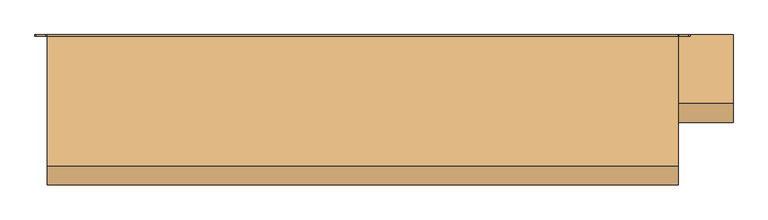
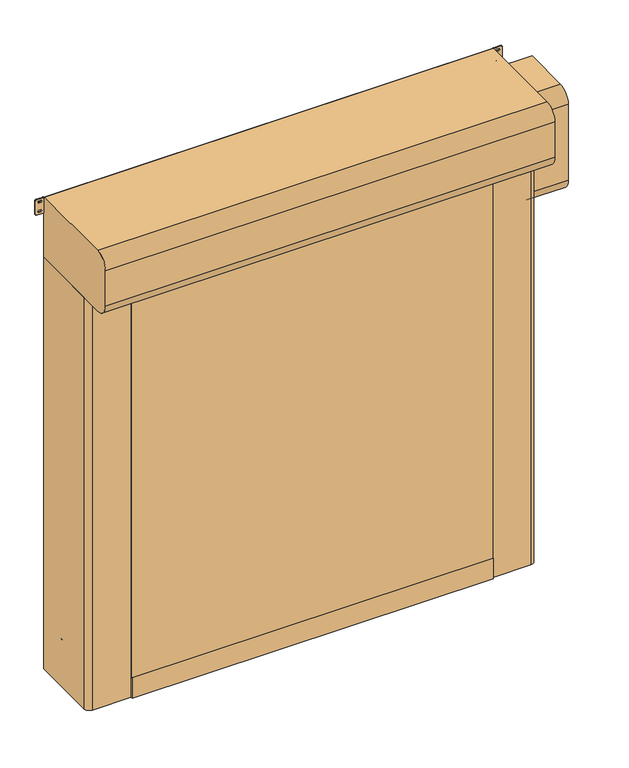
"""IFC4 building model written with IfcOpenShell, lengths in millimetres: door geometry, DO_WPB_Dynamicroll Frigo_Air_BMP : Dynamicroll Frigo2 Air."""

from ifc_helpers import new_model, si_unit, point, frame, frame_2d, origin, origin_with_axes, place, context, project, spatial, polyline, circle_curve, trimmed, segment, composite_curve, outline, extrude, source, transform, mapped, element, save


def door_e48c7063(model_context):
    return source(origin(), model_context, "Body", "SweptSolid", [
        extrude(outline(polyline([(-1012.0, -421.5), (1012.0, -421.5), (1012.0, -428.5), (-1012.0, -428.5), (-1012.0, -421.5)])), frame((0.0, 0.0, 120.0), z_axis=(0.0, 0.0, 1.0), x_axis=(1.0, 0.0, 0.0)), (0.0, 0.0, 1.0), 2500.0),
        extrude(outline(polyline([(-1012.0, -419.5), (1012.0, -419.5), (1012.0, -430.5), (-1012.0, -430.5), (-1012.0, -419.5)])), origin_with_axes(), (0.0, 0.0, 1.0), 120.0),
        extrude(outline(composite_curve([segment(trimmed(circle_curve(frame_2d((1576.6666667, 1171.0)), 6.0), [point((1582.6666667, 1171.0))], [point((1570.6666667, 1171.0))], False, "CARTESIAN"), True, "CONTINUOUS"), segment(polyline([(1570.6666667, 1171.0), (1570.6666667, 1189.0)]), True, "CONTINUOUS"), segment(trimmed(circle_curve(frame_2d((1576.6666667, 1189.0)), 6.0), [point((1570.6666667, 1189.0))], [point((1582.6666667, 1189.0))], False, "CARTESIAN"), True, "CONTINUOUS"), segment(polyline([(1582.6666667, 1189.0), (1582.6666667, 1171.0)]), True, "CONTINUOUS")], self_intersect=False)), frame((0.0, -20.0, 0.0), z_axis=(0.0, 1.0, 0.0), x_axis=(0.0, 0.0, 1.0)), (0.0, 0.0, 1.0), 20.0),
        extrude(outline(composite_curve([segment(trimmed(circle_curve(frame_2d((863.3333333, 1171.0)), 6.0), [point((869.3333333, 1171.0))], [point((857.3333333, 1171.0))], False, "CARTESIAN"), True, "CONTINUOUS"), segment(polyline([(857.3333333, 1171.0), (857.3333333, 1189.0)]), True, "CONTINUOUS"), segment(trimmed(circle_curve(frame_2d((863.3333333, 1189.0)), 6.0), [point((857.3333333, 1189.0))], [point((869.3333333, 1189.0))], False, "CARTESIAN"), True, "CONTINUOUS"), segment(polyline([(869.3333333, 1189.0), (869.3333333, 1171.0)]), True, "CONTINUOUS")], self_intersect=False)), frame((0.0, -20.0, 0.0), z_axis=(0.0, 1.0, 0.0), x_axis=(0.0, 0.0, 1.0)), (0.0, 0.0, 1.0), 20.0),
        extrude(outline(composite_curve([segment(trimmed(circle_curve(frame_2d((2290.0, 1171.0)), 6.0), [point((2296.0, 1171.0))], [point((2284.0, 1171.0))], False, "CARTESIAN"), True, "CONTINUOUS"), segment(polyline([(2284.0, 1171.0), (2284.0, 1189.0)]), True, "CONTINUOUS"), segment(trimmed(circle_curve(frame_2d((2290.0, 1189.0)), 6.0), [point((2284.0, 1189.0))], [point((2296.0, 1189.0))], False, "CARTESIAN"), True, "CONTINUOUS"), segment(polyline([(2296.0, 1189.0), (2296.0, 1171.0)]), True, "CONTINUOUS")], self_intersect=False)), frame((0.0, -20.0, 0.0), z_axis=(0.0, 1.0, 0.0), x_axis=(0.0, 0.0, 1.0)), (0.0, 0.0, 1.0), 20.0),
        extrude(outline(composite_curve([segment(trimmed(circle_curve(frame_2d((150.0, 1171.0)), 6.0), [point((156.0, 1171.0))], [point((144.0, 1171.0))], False, "CARTESIAN"), True, "CONTINUOUS"), segment(polyline([(144.0, 1171.0), (144.0, 1189.0)]), True, "CONTINUOUS"), segment(trimmed(circle_curve(frame_2d((150.0, 1189.0)), 6.0), [point((144.0, 1189.0))], [point((156.0, 1189.0))], False, "CARTESIAN"), True, "CONTINUOUS"), segment(polyline([(156.0, 1189.0), (156.0, 1171.0)]), True, "CONTINUOUS")], self_intersect=False)), frame((0.0, -20.0, 0.0), z_axis=(0.0, 1.0, 0.0), x_axis=(0.0, 0.0, 1.0)), (0.0, 0.0, 1.0), 20.0),
        extrude(outline(composite_curve([segment(polyline([(1582.6666667, -1171.0), (1582.6666667, -1189.0)]), True, "CONTINUOUS"), segment(trimmed(circle_curve(frame_2d((1576.6666667, -1189.0)), 6.0), [point((1582.6666667, -1189.0))], [point((1570.6666667, -1189.0))], False, "CARTESIAN"), True, "CONTINUOUS"), segment(polyline([(1570.6666667, -1189.0), (1570.6666667, -1171.0)]), True, "CONTINUOUS"), segment(trimmed(circle_curve(frame_2d((1576.6666667, -1171.0)), 6.0), [point((1570.6666667, -1171.0))], [point((1582.6666667, -1171.0))], False, "CARTESIAN"), True, "CONTINUOUS")], self_intersect=False)), frame((0.0, -20.0, 0.0), z_axis=(0.0, 1.0, 0.0), x_axis=(0.0, 0.0, 1.0)), (0.0, 0.0, 1.0), 20.0),
        extrude(outline(composite_curve([segment(polyline([(869.3333333, -1171.0), (869.3333333, -1189.0)]), True, "CONTINUOUS"), segment(trimmed(circle_curve(frame_2d((863.3333333, -1189.0)), 6.0), [point((869.3333333, -1189.0))], [point((857.3333333, -1189.0))], False, "CARTESIAN"), True, "CONTINUOUS"), segment(polyline([(857.3333333, -1189.0), (857.3333333, -1171.0)]), True, "CONTINUOUS"), segment(trimmed(circle_curve(frame_2d((863.3333333, -1171.0)), 6.0), [point((857.3333333, -1171.0))], [point((869.3333333, -1171.0))], False, "CARTESIAN"), True, "CONTINUOUS")], self_intersect=False)), frame((0.0, -20.0, 0.0), z_axis=(0.0, 1.0, 0.0), x_axis=(0.0, 0.0, 1.0)), (0.0, 0.0, 1.0), 20.0),
        extrude(outline(composite_curve([segment(polyline([(2296.0, -1171.0), (2296.0, -1189.0)]), True, "CONTINUOUS"), segment(trimmed(circle_curve(frame_2d((2290.0, -1189.0)), 6.0), [point((2296.0, -1189.0))], [point((2284.0, -1189.0))], False, "CARTESIAN"), True, "CONTINUOUS"), segment(polyline([(2284.0, -1189.0), (2284.0, -1171.0)]), True, "CONTINUOUS"), segment(trimmed(circle_curve(frame_2d((2290.0, -1171.0)), 6.0), [point((2284.0, -1171.0))], [point((2296.0, -1171.0))], False, "CARTESIAN"), True, "CONTINUOUS")], self_intersect=False)), frame((0.0, -20.0, 0.0), z_axis=(0.0, 1.0, 0.0), x_axis=(0.0, 0.0, 1.0)), (0.0, 0.0, 1.0), 20.0),
        extrude(outline(composite_curve([segment(polyline([(156.0, -1171.0), (156.0, -1189.0)]), True, "CONTINUOUS"), segment(trimmed(circle_curve(frame_2d((150.0, -1189.0)), 6.0), [point((156.0, -1189.0))], [point((144.0, -1189.0))], False, "CARTESIAN"), True, "CONTINUOUS"), segment(polyline([(144.0, -1189.0), (144.0, -1171.0)]), True, "CONTINUOUS"), segment(trimmed(circle_curve(frame_2d((150.0, -1171.0)), 6.0), [point((144.0, -1171.0))], [point((156.0, -1171.0))], False, "CARTESIAN"), True, "CONTINUOUS")], self_intersect=False)), frame((0.0, -20.0, 0.0), z_axis=(0.0, 1.0, 0.0), x_axis=(0.0, 0.0, 1.0)), (0.0, 0.0, 1.0), 20.0),
        extrude(outline(polyline([(-1012.0, -221.5), (1012.0, -221.5), (1012.0, -228.5), (-1012.0, -228.5), (-1012.0, -221.5)])), frame((0.0, 0.0, 120.0), z_axis=(0.0, 0.0, 1.0), x_axis=(1.0, 0.0, 0.0)), (0.0, 0.0, 1.0), 2500.0),
        extrude(outline(polyline([(-1012.0, -219.5), (1012.0, -219.5), (1012.0, -230.5), (-1012.0, -230.5), (-1012.0, -219.5)])), origin_with_axes(), (0.0, 0.0, 1.0), 120.0),
        extrude(outline(composite_curve([segment(polyline([(-1260.0, 0.0), (-1015.0, 0.0), (-1015.0, -209.2857143), (-1035.0, -215.0), (-1000.0, -215.0), (-1000.0, -221.5), (-1020.0, -221.5), (-1020.0, -228.5), (-1000.0, -228.5), (-1000.0, -235.0), (-1035.0, -235.0), (-1035.0, -250.0), (-1005.0, -250.0), (-1005.0, -420.0), (-1230.0, -420.0)]), True, "CONTINUOUS"), segment(trimmed(circle_curve(frame_2d((-1230.0, -390.0)), 30.0), [point((-1230.0, -420.0))], [point((-1260.0, -390.0))], False, "CARTESIAN"), True, "CONTINUOUS"), segment(polyline([(-1260.0, -390.0), (-1260.0, 0.0)]), True, "CONTINUOUS")], self_intersect=False)), origin_with_axes(), (0.0, 0.0, 1.0), 2440.0),
        extrude(outline(composite_curve([segment(polyline([(1260.0, 0.0), (1260.0, -390.0)]), True, "CONTINUOUS"), segment(trimmed(circle_curve(frame_2d((1230.0, -390.0)), 30.0), [point((1260.0, -390.0))], [point((1230.0, -420.0))], False, "CARTESIAN"), True, "CONTINUOUS"), segment(polyline([(1230.0, -420.0), (1005.0, -420.0), (1005.0, -250.0), (1035.0, -250.0), (1035.0, -235.0), (1000.0, -235.0), (1000.0, -228.5), (1020.0, -228.5), (1020.0, -221.5), (1000.0, -221.5), (1000.0, -215.0), (1035.0, -215.0), (1015.0, -209.2857143), (1015.0, 0.0), (1260.0, 0.0)]), True, "CONTINUOUS")], self_intersect=False)), origin_with_axes(), (0.0, 0.0, 1.0), 2440.0),
        extrude(outline(composite_curve([segment(trimmed(circle_curve(frame_2d((-5.0, 2445.0)), 5.0), [point((0.0, 2445.0))], [point((-5.0, 2440.0))], False, "CARTESIAN"), True, "CONTINUOUS"), segment(polyline([(-5.0, 2440.0), (-525.0, 2440.0)]), True, "CONTINUOUS"), segment(trimmed(circle_curve(frame_2d((-525.0, 2515.0)), 75.0), [point((-525.0, 2440.0))], [point((-600.0, 2515.0))], False, "CARTESIAN"), True, "CONTINUOUS"), segment(polyline([(-600.0, 2515.0), (-600.0, 2725.0)]), True, "CONTINUOUS"), segment(trimmed(circle_curve(frame_2d((-525.0, 2725.0)), 75.0), [point((-600.0, 2725.0))], [point((-525.0, 2800.0))], False, "CARTESIAN"), True, "CONTINUOUS"), segment(polyline([(-525.0, 2800.0), (-5.0, 2800.0)]), True, "CONTINUOUS"), segment(trimmed(circle_curve(frame_2d((-5.0, 2795.0)), 5.0), [point((-5.0, 2800.0))], [point((0.0, 2795.0))], False, "CARTESIAN"), True, "CONTINUOUS"), segment(polyline([(0.0, 2795.0), (0.0, 2445.0)]), True, "CONTINUOUS")], self_intersect=False)), frame((-1260.0, 0.0, 0.0), z_axis=(1.0, 0.0, 0.0), x_axis=(0.0, 1.0, 0.0)), (0.0, 0.0, 1.0), 2520.0),
        extrude(outline(composite_curve([segment(trimmed(circle_curve(frame_2d((2713.75, 1265.75)), 5.75), [point((2713.75, 1260.0))], [point((2708.0, 1265.75))], False, "CARTESIAN"), True, "CONTINUOUS"), segment(polyline([(2708.0, 1265.75), (2708.0, 1303.25)]), True, "CONTINUOUS"), segment(trimmed(circle_curve(frame_2d((2713.75, 1303.25)), 5.75), [point((2708.0, 1303.25))], [point((2713.75, 1309.0))], False, "CARTESIAN"), True, "CONTINUOUS"), segment(polyline([(2713.75, 1309.0), (2794.25, 1309.0)]), True, "CONTINUOUS"), segment(trimmed(circle_curve(frame_2d((2794.25, 1303.25)), 5.75), [point((2794.25, 1309.0))], [point((2800.0, 1303.25))], False, "CARTESIAN"), True, "CONTINUOUS"), segment(polyline([(2800.0, 1303.25), (2800.0, 1265.75)]), True, "CONTINUOUS"), segment(trimmed(circle_curve(frame_2d((2794.25, 1265.75)), 5.75), [point((2800.0, 1265.75))], [point((2794.25, 1260.0))], False, "CARTESIAN"), True, "CONTINUOUS"), segment(polyline([(2794.25, 1260.0), (2713.75, 1260.0)]), True, "CONTINUOUS")], self_intersect=False), holes=[composite_curve([segment(trimmed(circle_curve(frame_2d((2781.5, 1288.75)), 5.75), [point((2787.25, 1288.75))], [point((2775.75, 1288.75))], True, "CARTESIAN"), True, "CONTINUOUS"), segment(polyline([(2775.75, 1288.75), (2775.75, 1280.25)]), True, "CONTINUOUS"), segment(trimmed(circle_curve(frame_2d((2781.5, 1280.25)), 5.75), [point((2775.75, 1280.25))], [point((2787.25, 1280.25))], True, "CARTESIAN"), True, "CONTINUOUS"), segment(polyline([(2787.25, 1280.25), (2787.25, 1288.75)]), True, "CONTINUOUS")], self_intersect=False), composite_curve([segment(trimmed(circle_curve(frame_2d((2726.5, 1288.75)), 5.75), [point((2732.25, 1288.75))], [point((2720.75, 1288.75))], True, "CARTESIAN"), True, "CONTINUOUS"), segment(polyline([(2720.75, 1288.75), (2720.75, 1280.25)]), True, "CONTINUOUS"), segment(trimmed(circle_curve(frame_2d((2726.5, 1280.25)), 5.75), [point((2720.75, 1280.25))], [point((2732.25, 1280.25))], True, "CARTESIAN"), True, "CONTINUOUS"), segment(polyline([(2732.25, 1280.25), (2732.25, 1288.75)]), True, "CONTINUOUS")], self_intersect=False)]), frame((0.0, -5.0, 0.0), z_axis=(0.0, 1.0, 0.0), x_axis=(0.0, 0.0, 1.0)), (0.0, 0.0, 1.0), 5.0),
        extrude(outline(composite_curve([segment(trimmed(circle_curve(frame_2d((2713.75, -1303.25)), 5.75), [point((2713.75, -1309.0))], [point((2708.0, -1303.25))], False, "CARTESIAN"), True, "CONTINUOUS"), segment(polyline([(2708.0, -1303.25), (2708.0, -1265.75)]), True, "CONTINUOUS"), segment(trimmed(circle_curve(frame_2d((2713.75, -1265.75)), 5.75), [point((2708.0, -1265.75))], [point((2713.75, -1260.0))], False, "CARTESIAN"), True, "CONTINUOUS"), segment(polyline([(2713.75, -1260.0), (2794.25, -1260.0)]), True, "CONTINUOUS"), segment(trimmed(circle_curve(frame_2d((2794.25, -1265.75)), 5.75), [point((2794.25, -1260.0))], [point((2800.0, -1265.75))], False, "CARTESIAN"), True, "CONTINUOUS"), segment(polyline([(2800.0, -1265.75), (2800.0, -1303.25)]), True, "CONTINUOUS"), segment(trimmed(circle_curve(frame_2d((2794.25, -1303.25)), 5.75), [point((2800.0, -1303.25))], [point((2794.25, -1309.0))], False, "CARTESIAN"), True, "CONTINUOUS"), segment(polyline([(2794.25, -1309.0), (2713.75, -1309.0)]), True, "CONTINUOUS")], self_intersect=False), holes=[composite_curve([segment(trimmed(circle_curve(frame_2d((2781.5, -1280.25)), 5.75), [point((2787.25, -1280.25))], [point((2775.75, -1280.25))], True, "CARTESIAN"), True, "CONTINUOUS"), segment(polyline([(2775.75, -1280.25), (2775.75, -1288.75)]), True, "CONTINUOUS"), segment(trimmed(circle_curve(frame_2d((2781.5, -1288.75)), 5.75), [point((2775.75, -1288.75))], [point((2787.25, -1288.75))], True, "CARTESIAN"), True, "CONTINUOUS"), segment(polyline([(2787.25, -1288.75), (2787.25, -1280.25)]), True, "CONTINUOUS")], self_intersect=False), composite_curve([segment(trimmed(circle_curve(frame_2d((2726.5, -1280.25)), 5.75), [point((2732.25, -1280.25))], [point((2720.75, -1280.25))], True, "CARTESIAN"), True, "CONTINUOUS"), segment(polyline([(2720.75, -1280.25), (2720.75, -1288.75)]), True, "CONTINUOUS"), segment(trimmed(circle_curve(frame_2d((2726.5, -1288.75)), 5.75), [point((2720.75, -1288.75))], [point((2732.25, -1288.75))], True, "CARTESIAN"), True, "CONTINUOUS"), segment(polyline([(2732.25, -1288.75), (2732.25, -1280.25)]), True, "CONTINUOUS")], self_intersect=False)]), frame((0.0, -5.0, 0.0), z_axis=(0.0, 1.0, 0.0), x_axis=(0.0, 0.0, 1.0)), (0.0, 0.0, 1.0), 5.0),
        extrude(outline(composite_curve([segment(polyline([(0.0, 2675.0), (0.0, 2075.0), (-275.0, 2075.0)]), True, "CONTINUOUS"), segment(trimmed(circle_curve(frame_2d((-275.0, 2150.0)), 75.0), [point((-275.0, 2075.0))], [point((-350.0, 2150.0))], False, "CARTESIAN"), True, "CONTINUOUS"), segment(polyline([(-350.0, 2150.0), (-350.0, 2600.0)]), True, "CONTINUOUS"), segment(trimmed(circle_curve(frame_2d((-275.0, 2600.0)), 75.0), [point((-350.0, 2600.0))], [point((-275.0, 2675.0))], False, "CARTESIAN"), True, "CONTINUOUS"), segment(polyline([(-275.0, 2675.0), (0.0, 2675.0)]), True, "CONTINUOUS")], self_intersect=False)), frame((1260.0, 0.0, 0.0), z_axis=(1.0, 0.0, 0.0), x_axis=(0.0, 1.0, 0.0)), (0.0, 0.0, 1.0), 220.0),
    ])


if __name__ == "__main__":
    model = new_model("IFC4")
    model_context = context("Model", 3, world=origin())
    ifc_project = project(units=[si_unit("LENGTHUNIT", "METRE", prefix="MILLI")], contexts=[model_context])
    site = spatial("IfcSite", under=ifc_project)
    building = spatial("IfcBuilding", under=site)
    placement = place(None, origin())
    door_shape = door_e48c7063(model_context)
    element("IfcDoor", 1, ObjectType="DO_WPB_Dynamicroll Frigo_Air_BMP : Dynamicroll Frigo2 Air", at=placement, inside=building, context=model_context, shape_type="MappedRepresentation", body=[
        mapped(door_shape, transform((0.0, 0.0, 0.0), x_axis=(1.0, 0.0, 0.0), y_axis=(0.0, 1.0, 0.0), z_axis=(0.0, 0.0, 1.0))),
    ])
    save(model, "model.ifc")
